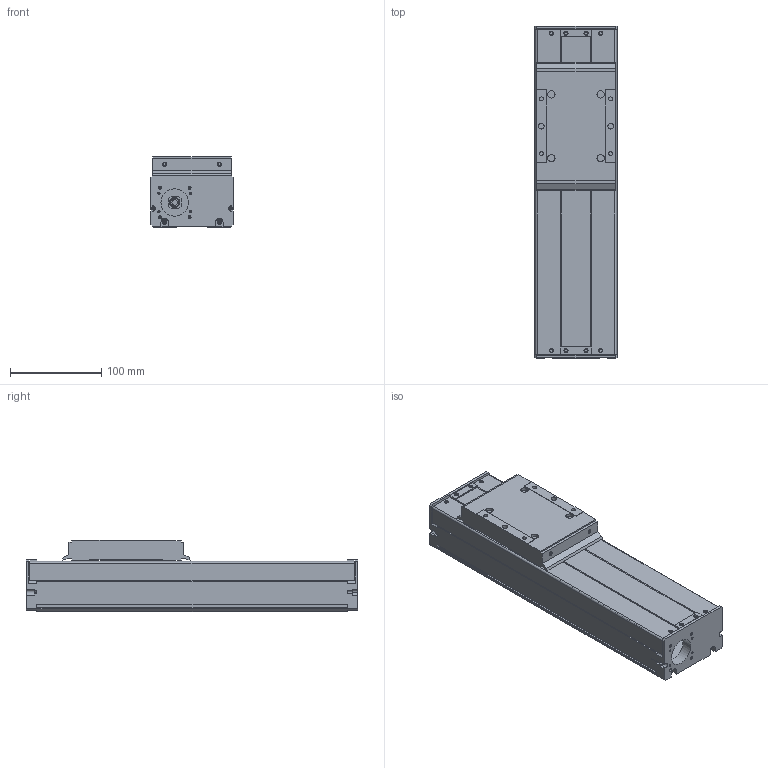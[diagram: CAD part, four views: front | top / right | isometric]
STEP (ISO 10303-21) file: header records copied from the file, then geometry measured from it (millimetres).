
FILE_DESCRIPTION (( 'STEP AP214' ), '1' );
FILE_NAME ('HZMotion TKS90-100A1F0.STEP', '2021-09-15T10:34:52', ( 'AutoBVT' ), ( 'Microsoft' ), 'SwSTEP 2.0', 'SolidWorks 2020', '' );
FILE_SCHEMA (( 'AUTOMOTIVE_DESIGN' ));
Length unit declared in the file: millimetre
Products named in the file (3): A1F0-100-1; 100-2; HZMotion TKS90-100A1F0
Assembly tree (2 placements, depth 2):
  HZMotion TKS90-100A1F0
    100-2
    A1F0-100-1
Bounding box: 90 x 364 x 78 mm (x, y, z)
Volume: 868070.1 mm3; surface area: 288792 mm2
Topology: 2 solids, 6 shells, 510 faces, 1319 edges, 850 vertices
Faces by surface type: plane 267, cylinder 207, cone 32, torus 4
Entity records: 15633 total; most frequent: DIRECTION 2769, CARTESIAN_POINT 2660, ORIENTED_EDGE 2590, EDGE_CURVE 1295, AXIS2_PLACEMENT_3D 959, VECTOR 851, LINE 851, VERTEX_POINT 850
